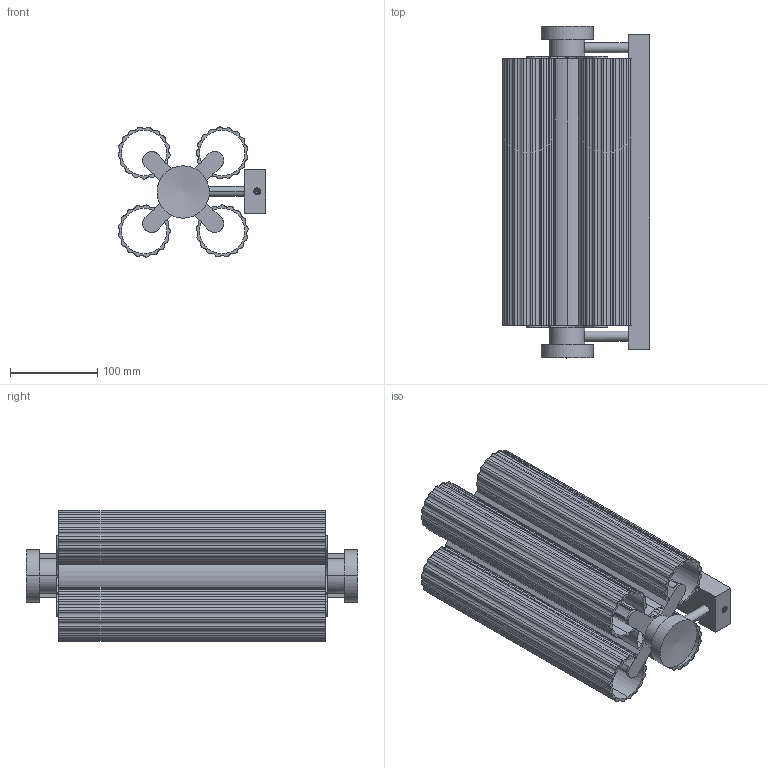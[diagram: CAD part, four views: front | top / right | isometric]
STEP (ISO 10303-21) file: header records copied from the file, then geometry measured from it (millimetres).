
FILE_DESCRIPTION (( 'STEP AP214' ), '1' );
FILE_NAME ('RYST_A1359.STEP', '2026-08-28T07:19:16', ( '' ), ( '' ), 'SwSTEP 2.0', 'SolidWorks 2023', '' );
FILE_SCHEMA (( 'AUTOMOTIVE_DESIGN' ));
Length unit declared in the file: millimetre
Products named in the file (1): RYST_A1359
Bounding box: 169.65 x 381 x 149.38 mm (x, y, z)
Surface area: 856604.2 mm2 (no closed solid volume)
Topology: 0 solids, 9 shells, 912 faces, 2486 edges, 1643 vertices
Faces by surface type: bspline 606, cylinder 290, plane 16
Entity records: 31670 total; most frequent: CARTESIAN_POINT 13727, ORIENTED_EDGE 4956, EDGE_CURVE 2480, DIRECTION 2120, VERTEX_POINT 1643, EDGE_LOOP 1024, B_SPLINE_CURVE_WITH_KNOTS 916, ADVANCED_FACE 912
